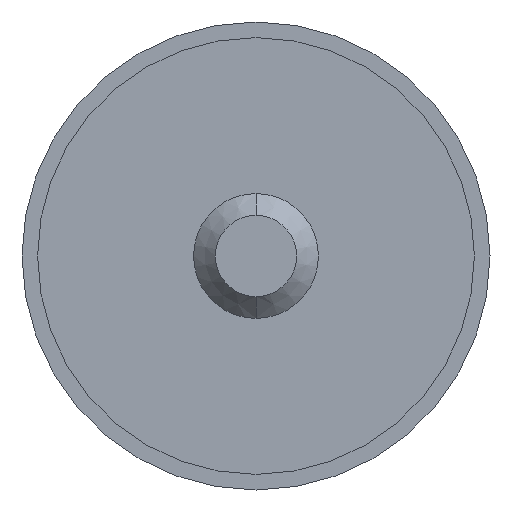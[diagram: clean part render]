
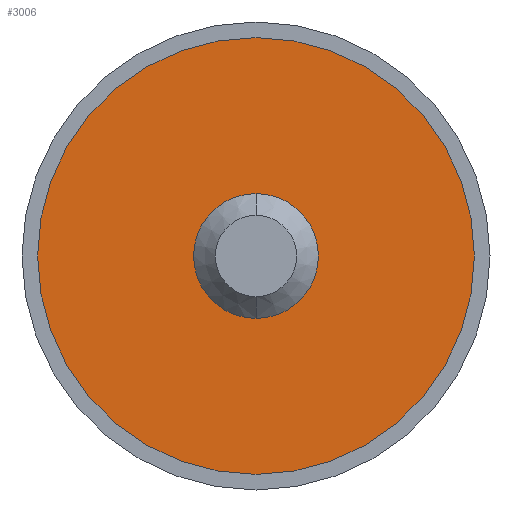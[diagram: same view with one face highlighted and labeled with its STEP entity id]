
A CAD part, front view. The second image highlights one B-rep face of the part: STEP entity #3006.
In plain terms, the highlighted planar face has unit normal (0, -1, 0).
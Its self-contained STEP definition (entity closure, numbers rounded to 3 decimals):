
#48 = PLANE ( 'NONE',  #3178 ) ;
#53 = ORIENTED_EDGE ( 'NONE', *, *, #4639, .F. ) ;
#144 = CARTESIAN_POINT ( 'NONE',  ( 0., -1., 0. ) ) ;
#157 = DIRECTION ( 'NONE',  ( 0., 0., -1. ) ) ;
#314 = FACE_OUTER_BOUND ( 'NONE', #883, .T. ) ;
#387 = CARTESIAN_POINT ( 'NONE',  ( 0., -1., 0. ) ) ;
#495 = AXIS2_PLACEMENT_3D ( 'NONE', #144, #4119, #157 ) ;
#515 = CARTESIAN_POINT ( 'NONE',  ( 0., -1., -2. ) ) ;
#554 = DIRECTION ( 'NONE',  ( 0., 0., 1. ) ) ;
#566 = EDGE_CURVE ( 'NONE', #2459, #3827, #2429, .T. ) ;
#883 = EDGE_LOOP ( 'NONE', ( #1059, #1683 ) ) ;
#943 = CARTESIAN_POINT ( 'NONE',  ( 0., -1., 7. ) ) ;
#1059 = ORIENTED_EDGE ( 'NONE', *, *, #2373, .F. ) ;
#1076 = DIRECTION ( 'NONE',  ( 0., 1., 0. ) ) ;
#1224 = CARTESIAN_POINT ( 'NONE',  ( 0., -1., -7. ) ) ;
#1621 = DIRECTION ( 'NONE',  ( 0., 1., 0. ) ) ;
#1683 = ORIENTED_EDGE ( 'NONE', *, *, #566, .F. ) ;
#1695 = CIRCLE ( 'NONE', #2064, 7. ) ;
#1733 = CARTESIAN_POINT ( 'NONE',  ( 0., -1., 2. ) ) ;
#2064 = AXIS2_PLACEMENT_3D ( 'NONE', #3091, #1621, #554 ) ;
#2210 = AXIS2_PLACEMENT_3D ( 'NONE', #387, #1076, #4347 ) ;
#2213 = CIRCLE ( 'NONE', #495, 2. ) ;
#2217 = CARTESIAN_POINT ( 'NONE',  ( 0., -1., 0. ) ) ;
#2373 = EDGE_CURVE ( 'NONE', #3827, #2459, #1695, .T. ) ;
#2429 = CIRCLE ( 'NONE', #2210, 7. ) ;
#2459 = VERTEX_POINT ( 'NONE', #1224 ) ;
#2540 = DIRECTION ( 'NONE',  ( 0., 1., 0. ) ) ;
#3006 = ADVANCED_FACE ( 'NONE', ( #3972, #314 ), #48, .F. ) ;
#3091 = CARTESIAN_POINT ( 'NONE',  ( 0., -1., 0. ) ) ;
#3100 = DIRECTION ( 'NONE',  ( 0., -1., 0. ) ) ;
#3178 = AXIS2_PLACEMENT_3D ( 'NONE', #2217, #2540, #4040 ) ;
#3239 = EDGE_LOOP ( 'NONE', ( #53, #3656 ) ) ;
#3295 = VERTEX_POINT ( 'NONE', #1733 ) ;
#3468 = AXIS2_PLACEMENT_3D ( 'NONE', #4604, #3100, #3900 ) ;
#3656 = ORIENTED_EDGE ( 'NONE', *, *, #4509, .F. ) ;
#3827 = VERTEX_POINT ( 'NONE', #943 ) ;
#3900 = DIRECTION ( 'NONE',  ( 0., 0., -1. ) ) ;
#3972 = FACE_BOUND ( 'NONE', #3239, .T. ) ;
#4040 = DIRECTION ( 'NONE',  ( 0., 0., 1. ) ) ;
#4119 = DIRECTION ( 'NONE',  ( 0., -1., 0. ) ) ;
#4347 = DIRECTION ( 'NONE',  ( 0., 0., 1. ) ) ;
#4424 = CIRCLE ( 'NONE', #3468, 2. ) ;
#4490 = VERTEX_POINT ( 'NONE', #515 ) ;
#4509 = EDGE_CURVE ( 'NONE', #4490, #3295, #2213, .T. ) ;
#4604 = CARTESIAN_POINT ( 'NONE',  ( 0., -1., 0. ) ) ;
#4639 = EDGE_CURVE ( 'NONE', #3295, #4490, #4424, .T. ) ;
